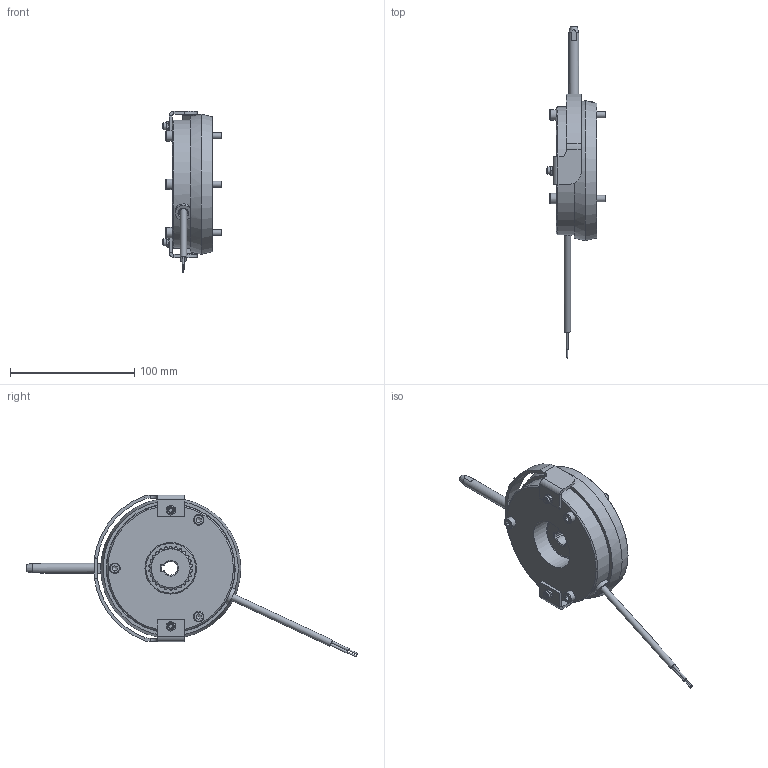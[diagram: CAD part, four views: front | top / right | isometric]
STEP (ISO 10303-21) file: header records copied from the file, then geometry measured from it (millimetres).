
FILE_DESCRIPTION(/* description */ (''),/* implementation_level */ '2;1');
FILE_NAME(/* name */ 'C:\SapWorkDir\Inventor\IP1\ConvertTempPath\5029481_IPT_000.ipt.stp',/* time_stamp */ '2021-04-21T07:25:41+02:00',/* author */ ('WOELK'),/* organization */ (''),/* preprocessor_version */ 'ST-DEVELOPER v17',/* originating_system */ 'Autodesk Inventor 2018',/* authorisation */ '');
FILE_SCHEMA (('AUTOMOTIVE_DESIGN { 1 0 10303 214 3 1 1 }'));
Length unit declared in the file: millimetre
Products named in the file (1): 5029481
Bounding box: 48 x 267.26 x 130.44 mm (x, y, z)
Volume: 244666.3 mm3; surface area: 93769.9 mm2
Topology: 1 solids, 1 shells, 839 faces, 2601 edges, 1715 vertices
Faces by surface type: cylinder 316, plane 311, bspline 102, cone 67, torus 43
Full cylindrical faces by diameter (mm): 1 x2, 1.85 x2, 3.621 x2, 4 x4, 4.134 x1, 4.3 x2, 5 x5, 5.15 x3, 5.3 x6, 5.5 x7, 5.9 x4, 6.6 x1, 6.7 x1, 7 x1, 7.188 x3, 8 x4, 8.4 x3, 8.5 x3, 10 x3, 12 x2, 40 x1, 41.5 x2, 45 x1, 76.5 x1, 103 x2
Entity records: 36288 total; most frequent: CARTESIAN_POINT 12614, ORIENTED_EDGE 5198, DIRECTION 4412, EDGE_CURVE 2599, VERTEX_POINT 1715, AXIS2_PLACEMENT_3D 1700, LINE 1012, VECTOR 1012
